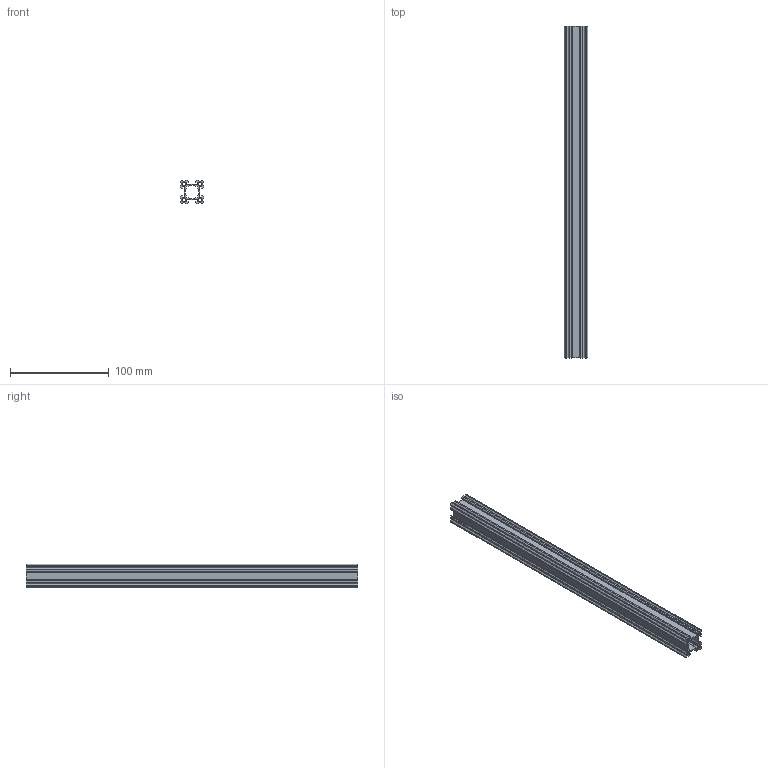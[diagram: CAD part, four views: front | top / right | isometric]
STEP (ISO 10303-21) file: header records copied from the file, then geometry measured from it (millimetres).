
FILE_DESCRIPTION (( 'STEP AP203' ), '1' );
FILE_NAME ('1109-0016-0336.STEP', '2017-05-15T21:52:45', ( '' ), ( '' ), 'SwSTEP 2.0', 'SolidWorks 2016', '' );
FILE_SCHEMA (( 'CONFIG_CONTROL_DESIGN' ));
Products named in the file (1): 1109-0016-0336
Bounding box: 24 x 336 x 24 mm (x, y, z)
Volume: 66385.4 mm3; surface area: 83308.5 mm2
Topology: 1 solids, 1 shells, 807 faces, 2405 edges, 1600 vertices
Faces by surface type: cylinder 683, plane 88, cone 20, bspline 16
Entity records: 53534 total; most frequent: CARTESIAN_POINT 35507, ORIENTED_EDGE 4810, DIRECTION 2779, EDGE_CURVE 2405, VERTEX_POINT 1600, AXIS2_PLACEMENT_3D 928, VECTOR 923, LINE 923
